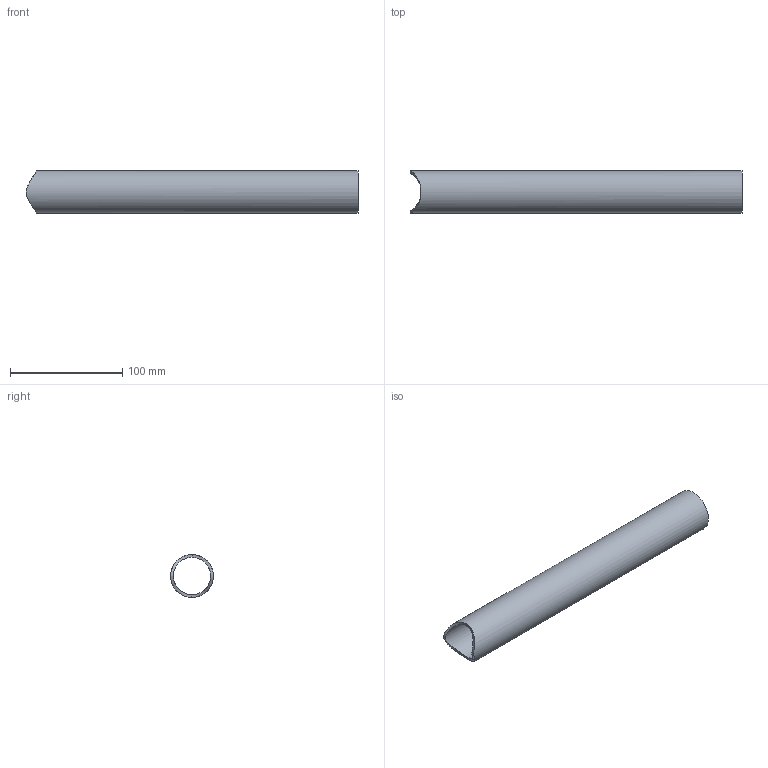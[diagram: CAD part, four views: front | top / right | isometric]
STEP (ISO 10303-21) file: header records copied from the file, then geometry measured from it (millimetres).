
FILE_DESCRIPTION(/* description */ (''),/* implementation_level */ '2;1');
FILE_NAME(/* name */ 'I1 Imported coped brace_developed.step',/* time_stamp */ '2026-10-26T11:43:45-04:00',/* author */ (''),/* organization */ (''),/* preprocessor_version */ 'ST-DEVELOPER v20.2',/* originating_system */ 'Autodesk Translation Framework v15.17.0.0',/* authorisation */ '');
FILE_SCHEMA (('AUTOMOTIVE_DESIGN { 1 0 10303 214 3 1 1 }'));
Length unit declared in the file: inch
Products named in the file (1): 2026-10-26-11-43-43-722
Bounding box: 295.42 x 38.1 x 38.1 mm (x, y, z)
Volume: 77722.7 mm3; surface area: 65725.4 mm2
Topology: 1 solids, 1 shells, 5 faces, 12 edges, 8 vertices
Faces by surface type: bspline 2, cylinder 2, plane 1
Full cylindrical faces by diameter (mm): 33.274 x1, 38.1 x1
Entity records: 3112 total; most frequent: CARTESIAN_POINT 2969, ORIENTED_EDGE 24, DIRECTION 16, EDGE_CURVE 12, VERTEX_POINT 8, EDGE_LOOP 6, B_SPLINE_CURVE_WITH_KNOTS 6, AXIS2_PLACEMENT_3D 6
